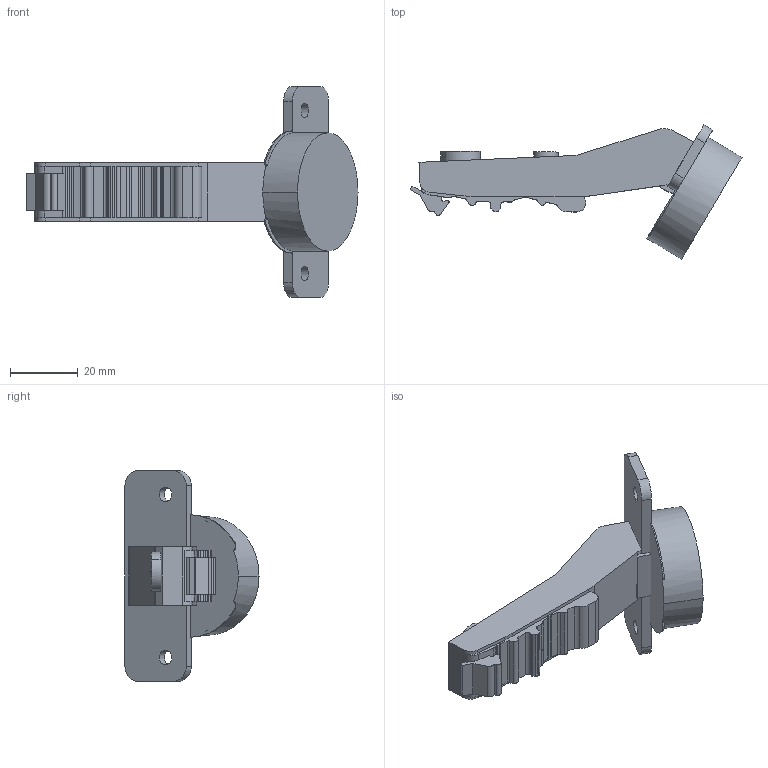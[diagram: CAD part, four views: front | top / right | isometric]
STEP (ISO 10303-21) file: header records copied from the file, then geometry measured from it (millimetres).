
FILE_DESCRIPTION (( 'STEP AP203' ), '1' );
FILE_NAME ('C82W676FA-DTC 3D close.STEP', '2024-09-07T01:43:44', ( '微软用户' ), ( '微软中国' ), 'SwSTEP 2.0', 'SolidWorks 2021', '' );
FILE_SCHEMA (( 'CONFIG_CONTROL_DESIGN' ));
Length unit declared in the file: millimetre
Products named in the file (1): C82W676FA-DTC 3D close
Bounding box: 97.67 x 39.46 x 61.96 mm (x, y, z)
Volume: 33624 mm3; surface area: 10572.6 mm2
Topology: 1 solids, 1 shells, 133 faces, 384 edges, 256 vertices
Faces by surface type: cylinder 68, plane 65
Entity records: 4505 total; most frequent: CARTESIAN_POINT 798, DIRECTION 782, ORIENTED_EDGE 768, EDGE_CURVE 384, AXIS2_PLACEMENT_3D 272, VERTEX_POINT 256, LINE 238, VECTOR 238
